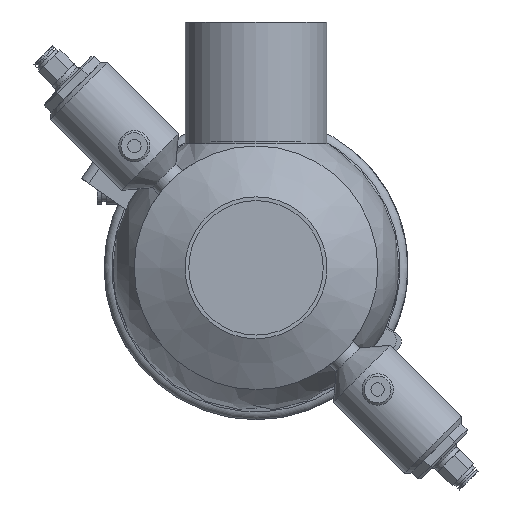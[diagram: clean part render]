
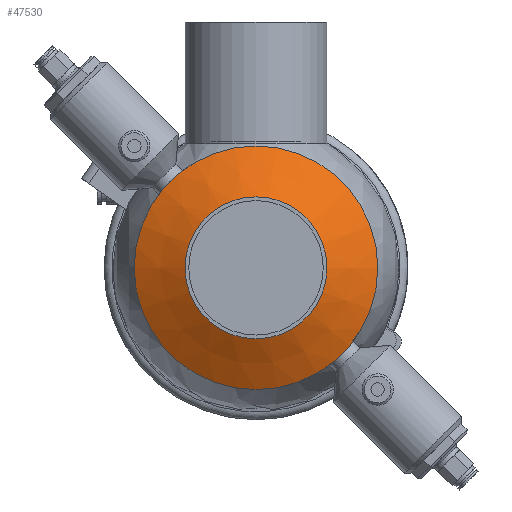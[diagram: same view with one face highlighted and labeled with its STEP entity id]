
A CAD part, front view. The second image highlights one B-rep face of the part: STEP entity #47530.
In plain terms, the highlighted conical face has half-angle 60 degrees and reference radius 54.5 mm.
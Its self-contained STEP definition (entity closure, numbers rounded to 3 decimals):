
#3960 = FACE_OUTER_BOUND ( 'NONE', #37088, .T. ) ;
#5012 = DIRECTION ( 'NONE',  ( 0., 1., 0. ) ) ;
#5964 = DIRECTION ( 'NONE',  ( 0., 1., 0. ) ) ;
#6140 = DIRECTION ( 'NONE',  ( 0., 0., 1. ) ) ;
#6887 = CARTESIAN_POINT ( 'NONE',  ( 0., -58., 0. ) ) ;
#8373 = ORIENTED_EDGE ( 'NONE', *, *, #49725, .F. ) ;
#9265 = CARTESIAN_POINT ( 'NONE',  ( 0., -58., 54.5 ) ) ;
#10751 = DIRECTION ( 'NONE',  ( 0., 0., 1. ) ) ;
#14765 = EDGE_CURVE ( 'NONE', #52294, #52294, #35386, .T. ) ;
#15704 = AXIS2_PLACEMENT_3D ( 'NONE', #38355, #34447, #6140 ) ;
#19692 = EDGE_LOOP ( 'NONE', ( #59696 ) ) ;
#20127 = AXIS2_PLACEMENT_3D ( 'NONE', #40336, #5012, #10751 ) ;
#21946 = CIRCLE ( 'NONE', #57912, 54.5 ) ;
#22734 = CARTESIAN_POINT ( 'NONE',  ( 0., -71.135, 31.75 ) ) ;
#23241 = FACE_BOUND ( 'NONE', #19692, .T. ) ;
#23749 = VERTEX_POINT ( 'NONE', #9265 ) ;
#23941 = CONICAL_SURFACE ( 'NONE', #15704, 54.5, 1.047 ) ;
#34447 = DIRECTION ( 'NONE',  ( 0., 1., 0. ) ) ;
#35386 = CIRCLE ( 'NONE', #20127, 31.75 ) ;
#37088 = EDGE_LOOP ( 'NONE', ( #8373 ) ) ;
#38355 = CARTESIAN_POINT ( 'NONE',  ( 0., -58., 0. ) ) ;
#40336 = CARTESIAN_POINT ( 'NONE',  ( 0., -71.135, 0. ) ) ;
#46101 = DIRECTION ( 'NONE',  ( 0., 0., 1. ) ) ;
#47530 = ADVANCED_FACE ( 'NONE', ( #23241, #3960 ), #23941, .T. ) ;
#49725 = EDGE_CURVE ( 'NONE', #23749, #23749, #21946, .T. ) ;
#52294 = VERTEX_POINT ( 'NONE', #22734 ) ;
#57912 = AXIS2_PLACEMENT_3D ( 'NONE', #6887, #5964, #46101 ) ;
#59696 = ORIENTED_EDGE ( 'NONE', *, *, #14765, .T. ) ;
